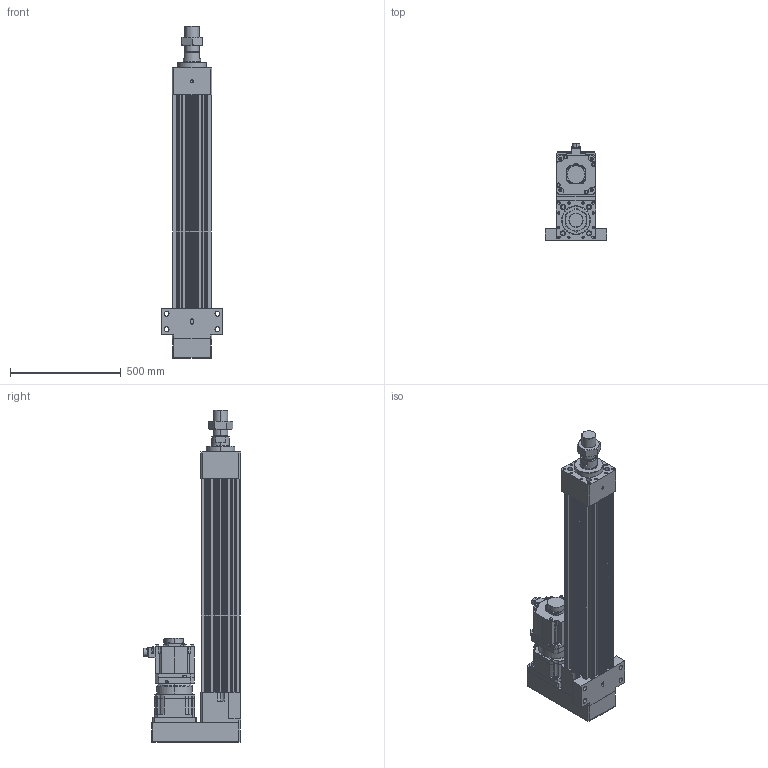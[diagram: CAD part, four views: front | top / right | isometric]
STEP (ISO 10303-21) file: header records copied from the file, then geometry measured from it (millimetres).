
FILE_DESCRIPTION (( 'STEP AP203' ), '1' );
FILE_NAME ('HES180HS-P650-W050G00-M-FFC.STEP', '2023-02-01T07:30:14', ( 'tms' ), ( '' ), 'SwSTEP 2.0', 'SolidWorks 2013', '' );
FILE_SCHEMA (( 'CONFIG_CONTROL_DESIGN' ));
Length unit declared in the file: millimetre
Products named in the file (9): AB1801; HES180 ROD M ST650; P0403600401; HES180-P650-G180-FFC; HG-SR502; AB180-003[HG-SR702B]; P1301600001; M64X2.0P; HES180HS-P650-W050G00-M-FFC
Assembly tree (8 placements, depth 3):
  HES180HS-P650-W050G00-M-FFC
    HES180-P650-G180-FFC
    HES180 ROD M ST650
    M64X2.0P
    AB180-003[HG-SR702B]
      AB1801
      P1301600001
      P0403600401
    HG-SR502
Bounding box: 280 x 438.85 x 1502 mm (x, y, z)
Volume: 32043716 mm3; surface area: 2862608.4 mm2
Topology: 4 solids, 19 shells, 1474 faces, 3821 edges, 2463 vertices
Faces by surface type: cylinder 686, plane 553, cone 168, bspline 63, torus 4
Entity records: 53682 total; most frequent: CARTESIAN_POINT 16162, DIRECTION 7905, ORIENTED_EDGE 7498, EDGE_CURVE 3773, AXIS2_PLACEMENT_3D 2986, VERTEX_POINT 2463, LINE 1933, VECTOR 1933
